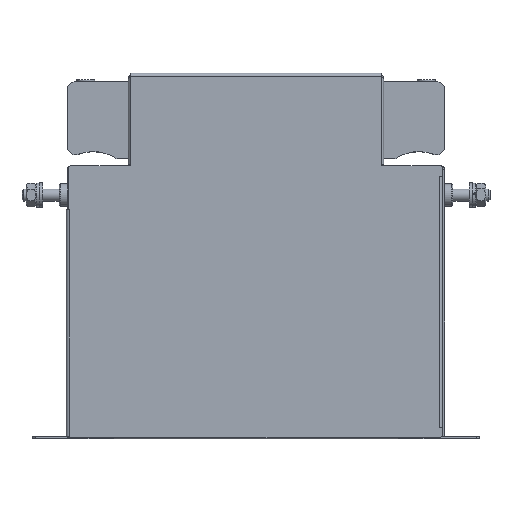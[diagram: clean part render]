
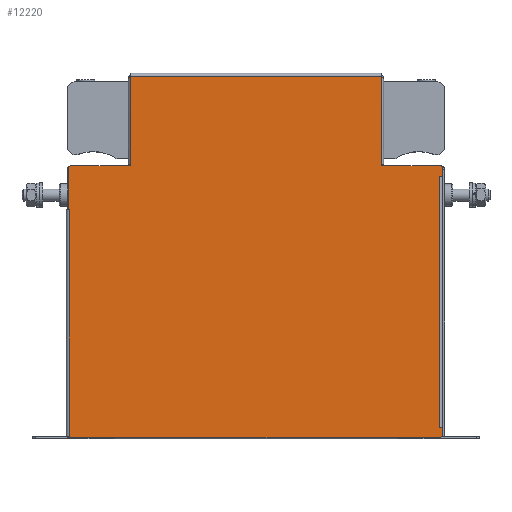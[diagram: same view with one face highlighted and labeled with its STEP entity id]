
A CAD part, top view. The second image highlights one B-rep face of the part: STEP entity #12220.
In plain terms, the highlighted planar face has unit normal (0, 0, 1).
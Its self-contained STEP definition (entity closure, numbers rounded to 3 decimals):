
#641=LINE('',#18067,#1796);
#841=LINE('',#18572,#1996);
#1189=LINE('',#20109,#2344);
#1193=LINE('',#20116,#2348);
#1195=LINE('',#20121,#2350);
#1206=LINE('',#20147,#2361);
#1208=LINE('',#20152,#2363);
#1210=LINE('',#20157,#2365);
#1216=LINE('',#20168,#2371);
#1217=LINE('',#20170,#2372);
#1219=LINE('',#20175,#2374);
#1223=LINE('',#20182,#2378);
#1226=LINE('',#20188,#2381);
#1237=LINE('',#20219,#2392);
#1241=LINE('',#20229,#2396);
#1242=LINE('',#20233,#2397);
#1248=LINE('',#20244,#2403);
#1249=LINE('',#20246,#2404);
#1251=LINE('',#20251,#2406);
#1256=LINE('',#20261,#2411);
#1266=LINE('',#20281,#2421);
#1269=LINE('',#20288,#2424);
#1272=LINE('',#20293,#2427);
#1273=LINE('',#20295,#2428);
#1286=LINE('',#20317,#2441);
#1293=LINE('',#20330,#2448);
#1295=LINE('',#20333,#2450);
#1796=VECTOR('',#14784,10.);
#1996=VECTOR('',#15196,10.);
#2344=VECTOR('',#16028,10.);
#2348=VECTOR('',#16034,10.);
#2350=VECTOR('',#16038,10.);
#2361=VECTOR('',#16067,10.);
#2363=VECTOR('',#16071,10.);
#2365=VECTOR('',#16075,10.);
#2371=VECTOR('',#16083,10.);
#2372=VECTOR('',#16086,10.);
#2374=VECTOR('',#16090,10.);
#2378=VECTOR('',#16096,10.);
#2381=VECTOR('',#16101,10.);
#2392=VECTOR('',#16140,10.);
#2396=VECTOR('',#16150,10.);
#2397=VECTOR('',#16153,10.);
#2403=VECTOR('',#16161,10.);
#2404=VECTOR('',#16164,10.);
#2406=VECTOR('',#16168,10.);
#2411=VECTOR('',#16175,10.);
#2421=VECTOR('',#16199,10.);
#2424=VECTOR('',#16206,10.);
#2427=VECTOR('',#16211,10.);
#2428=VECTOR('',#16214,10.);
#2441=VECTOR('',#16237,10.);
#2448=VECTOR('',#16252,10.);
#2450=VECTOR('',#16256,10.);
#2935=PLANE('',#13203);
#3813=FACE_OUTER_BOUND('',#4655,.T.);
#4655=EDGE_LOOP('',(#10552,#10553,#10554,#10555,#10556,#10557,#10558,#10559,
#10560,#10561,#10562,#10563,#10564,#10565,#10566,#10567,#10568,#10569,#10570,
#10571,#10572,#10573,#10574,#10575,#10576,#10577,#10578));
#5557=VERTEX_POINT('',#18064);
#5558=VERTEX_POINT('',#18066);
#5713=VERTEX_POINT('',#18569);
#5714=VERTEX_POINT('',#18571);
#5943=VERTEX_POINT('',#20105);
#5944=VERTEX_POINT('',#20107);
#5945=VERTEX_POINT('',#20111);
#5948=VERTEX_POINT('',#20119);
#5955=VERTEX_POINT('',#20149);
#5956=VERTEX_POINT('',#20151);
#5957=VERTEX_POINT('',#20155);
#5958=VERTEX_POINT('',#20156);
#5962=VERTEX_POINT('',#20165);
#5963=VERTEX_POINT('',#20173);
#5964=VERTEX_POINT('',#20174);
#5968=VERTEX_POINT('',#20186);
#5975=VERTEX_POINT('',#20223);
#5977=VERTEX_POINT('',#20227);
#5978=VERTEX_POINT('',#20231);
#5979=VERTEX_POINT('',#20232);
#5983=VERTEX_POINT('',#20241);
#5984=VERTEX_POINT('',#20249);
#5985=VERTEX_POINT('',#20250);
#5989=VERTEX_POINT('',#20259);
#5993=VERTEX_POINT('',#20284);
#5995=VERTEX_POINT('',#20290);
#6001=VERTEX_POINT('',#20328);
#6775=EDGE_CURVE('',#5558,#5557,#641,.T.);
#7005=EDGE_CURVE('',#5714,#5713,#841,.T.);
#7446=EDGE_CURVE('',#5944,#5943,#1189,.T.);
#7450=EDGE_CURVE('',#5945,#5714,#1193,.T.);
#7452=EDGE_CURVE('',#5557,#5948,#1195,.T.);
#7467=EDGE_CURVE('',#5948,#5945,#1206,.T.);
#7469=EDGE_CURVE('',#5955,#5956,#1208,.T.);
#7471=EDGE_CURVE('',#5957,#5958,#1210,.T.);
#7477=EDGE_CURVE('',#5962,#5957,#1216,.T.);
#7478=EDGE_CURVE('',#5958,#5956,#1217,.T.);
#7480=EDGE_CURVE('',#5963,#5964,#1219,.T.);
#7484=EDGE_CURVE('',#5944,#5963,#1223,.T.);
#7487=EDGE_CURVE('',#5964,#5968,#1226,.T.);
#7504=EDGE_CURVE('',#5968,#5962,#1237,.T.);
#7508=EDGE_CURVE('',#5977,#5975,#1241,.T.);
#7509=EDGE_CURVE('',#5978,#5979,#1242,.T.);
#7515=EDGE_CURVE('',#5983,#5978,#1248,.T.);
#7516=EDGE_CURVE('',#5979,#5975,#1249,.T.);
#7518=EDGE_CURVE('',#5984,#5985,#1251,.T.);
#7523=EDGE_CURVE('',#5985,#5989,#1256,.T.);
#7536=EDGE_CURVE('',#5989,#5983,#1266,.T.);
#7540=EDGE_CURVE('',#5993,#5984,#1269,.T.);
#7543=EDGE_CURVE('',#5995,#5993,#1272,.T.);
#7544=EDGE_CURVE('',#5995,#5713,#1273,.T.);
#7557=EDGE_CURVE('',#5558,#5955,#1286,.T.);
#7564=EDGE_CURVE('',#6001,#5977,#1293,.T.);
#7566=EDGE_CURVE('',#5943,#6001,#1295,.T.);
#10552=ORIENTED_EDGE('',*,*,#7566,.F.);
#10553=ORIENTED_EDGE('',*,*,#7446,.F.);
#10554=ORIENTED_EDGE('',*,*,#7484,.T.);
#10555=ORIENTED_EDGE('',*,*,#7480,.T.);
#10556=ORIENTED_EDGE('',*,*,#7487,.T.);
#10557=ORIENTED_EDGE('',*,*,#7504,.T.);
#10558=ORIENTED_EDGE('',*,*,#7477,.T.);
#10559=ORIENTED_EDGE('',*,*,#7471,.T.);
#10560=ORIENTED_EDGE('',*,*,#7478,.T.);
#10561=ORIENTED_EDGE('',*,*,#7469,.F.);
#10562=ORIENTED_EDGE('',*,*,#7557,.F.);
#10563=ORIENTED_EDGE('',*,*,#6775,.T.);
#10564=ORIENTED_EDGE('',*,*,#7452,.T.);
#10565=ORIENTED_EDGE('',*,*,#7467,.T.);
#10566=ORIENTED_EDGE('',*,*,#7450,.T.);
#10567=ORIENTED_EDGE('',*,*,#7005,.T.);
#10568=ORIENTED_EDGE('',*,*,#7544,.F.);
#10569=ORIENTED_EDGE('',*,*,#7543,.T.);
#10570=ORIENTED_EDGE('',*,*,#7540,.T.);
#10571=ORIENTED_EDGE('',*,*,#7518,.T.);
#10572=ORIENTED_EDGE('',*,*,#7523,.T.);
#10573=ORIENTED_EDGE('',*,*,#7536,.T.);
#10574=ORIENTED_EDGE('',*,*,#7515,.T.);
#10575=ORIENTED_EDGE('',*,*,#7509,.T.);
#10576=ORIENTED_EDGE('',*,*,#7516,.T.);
#10577=ORIENTED_EDGE('',*,*,#7508,.F.);
#10578=ORIENTED_EDGE('',*,*,#7564,.F.);
#12220=ADVANCED_FACE('',(#3813),#2935,.T.);
#13203=AXIS2_PLACEMENT_3D('',#20335,#16258,#16259);
#14784=DIRECTION('',(-1.,0.,0.));
#15196=DIRECTION('',(-1.,0.,0.));
#16028=DIRECTION('',(0.,-1.,0.));
#16034=DIRECTION('',(0.,-1.,0.));
#16038=DIRECTION('',(0.,1.,0.));
#16067=DIRECTION('',(-1.,0.,0.));
#16071=DIRECTION('',(0.,-1.,0.));
#16075=DIRECTION('',(0.,1.,0.));
#16083=DIRECTION('',(-1.,0.,0.));
#16086=DIRECTION('',(1.,0.,0.));
#16090=DIRECTION('',(0.,1.,0.));
#16096=DIRECTION('',(-1.,0.,0.));
#16101=DIRECTION('',(1.,0.,0.));
#16140=DIRECTION('',(0.,1.,0.));
#16150=DIRECTION('',(0.,1.,0.));
#16153=DIRECTION('',(0.,-1.,0.));
#16161=DIRECTION('',(1.,0.,0.));
#16164=DIRECTION('',(-1.,0.,0.));
#16168=DIRECTION('',(0.,-1.,0.));
#16175=DIRECTION('',(-1.,0.,0.));
#16199=DIRECTION('',(0.,-1.,0.));
#16206=DIRECTION('',(1.,0.,0.));
#16211=DIRECTION('',(0.,-1.,0.));
#16214=DIRECTION('',(0.707,0.707,0.));
#16237=DIRECTION('',(0.707,-0.707,0.));
#16252=DIRECTION('',(-1.,0.,0.));
#16256=DIRECTION('',(-0.707,-0.707,0.));
#16258=DIRECTION('center_axis',(0.,0.,
1.));
#16259=DIRECTION('ref_axis',(1.,0.,0.));
#18064=CARTESIAN_POINT('',(61.8,134.3,32.35));
#18066=CARTESIAN_POINT('',(90.8,134.3,32.35));
#18067=CARTESIAN_POINT('',(45.65,134.3,32.35));
#18569=CARTESIAN_POINT('',(-91.3,134.3,32.35));
#18571=CARTESIAN_POINT('',(-61.8,134.3,32.35));
#18572=CARTESIAN_POINT('',(-31.15,134.3,32.35));
#20105=CARTESIAN_POINT('',(91.8,1.5,32.35));
#20107=CARTESIAN_POINT('',(91.8,5.49,32.35));
#20109=CARTESIAN_POINT('',(91.8,0.5,32.35));
#20111=CARTESIAN_POINT('',(-61.8,178.5,32.35));
#20116=CARTESIAN_POINT('',(-61.8,135.125,32.35));
#20119=CARTESIAN_POINT('',(61.8,178.5,32.35));
#20121=CARTESIAN_POINT('',(61.8,112.275,32.35));
#20147=CARTESIAN_POINT('',(30.65,178.5,32.35));
#20149=CARTESIAN_POINT('',(91.8,133.3,32.35));
#20151=CARTESIAN_POINT('',(91.8,129.31,32.35));
#20152=CARTESIAN_POINT('',(91.8,0.5,32.35));
#20155=CARTESIAN_POINT('',(90.29,129.3,32.35));
#20156=CARTESIAN_POINT('',(90.29,129.31,32.35));
#20157=CARTESIAN_POINT('',(90.29,109.775,32.35));
#20165=CARTESIAN_POINT('',(90.3,129.3,32.35));
#20168=CARTESIAN_POINT('',(45.65,129.3,32.35));
#20170=CARTESIAN_POINT('',(44.895,129.31,32.35));
#20173=CARTESIAN_POINT('',(90.29,5.49,32.35));
#20174=CARTESIAN_POINT('',(90.29,5.5,32.35));
#20175=CARTESIAN_POINT('',(90.29,47.87,32.35));
#20182=CARTESIAN_POINT('',(45.65,5.49,32.35));
#20186=CARTESIAN_POINT('',(90.3,5.5,32.35));
#20188=CARTESIAN_POINT('',(44.895,5.5,32.35));
#20219=CARTESIAN_POINT('',(90.3,47.875,32.35));
#20223=CARTESIAN_POINT('',(-92.8,1.19,32.35));
#20227=CARTESIAN_POINT('',(-92.8,0.5,32.35));
#20229=CARTESIAN_POINT('',(-92.8,180.,32.35));
#20231=CARTESIAN_POINT('',(-91.99,1.2,32.35));
#20232=CARTESIAN_POINT('',(-91.99,1.19,32.35));
#20233=CARTESIAN_POINT('',(-91.99,45.725,32.35));
#20241=CARTESIAN_POINT('',(-92.,1.2,32.35));
#20244=CARTESIAN_POINT('',(-46.65,1.2,32.35));
#20246=CARTESIAN_POINT('',(-46.245,1.19,32.35));
#20249=CARTESIAN_POINT('',(-91.99,112.81,32.35));
#20250=CARTESIAN_POINT('',(-91.99,112.8,32.35));
#20251=CARTESIAN_POINT('',(-91.99,101.53,32.35));
#20259=CARTESIAN_POINT('',(-92.,112.8,32.35));
#20261=CARTESIAN_POINT('',(-46.245,112.8,32.35));
#20281=CARTESIAN_POINT('',(-92.,101.525,32.35));
#20284=CARTESIAN_POINT('',(-92.3,112.81,32.35));
#20288=CARTESIAN_POINT('',(-46.65,112.81,32.35));
#20290=CARTESIAN_POINT('',(-92.3,133.3,32.35));
#20293=CARTESIAN_POINT('',(-92.3,106.903,32.35));
#20295=CARTESIAN_POINT('',(-79.862,145.738,32.35));
#20317=CARTESIAN_POINT('',(79.238,145.863,32.35));
#20328=CARTESIAN_POINT('',(90.8,0.5,32.35));
#20330=CARTESIAN_POINT('',(-92.8,0.5,32.35));
#20333=CARTESIAN_POINT('',(90.662,0.363,32.35));
#20335=CARTESIAN_POINT('Origin',(-0.5,90.25,32.35));
